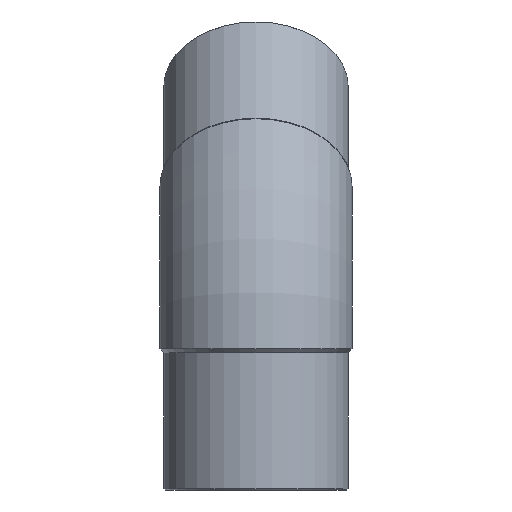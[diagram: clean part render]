
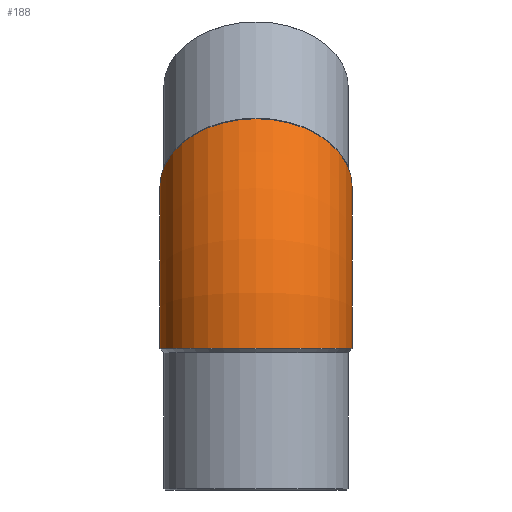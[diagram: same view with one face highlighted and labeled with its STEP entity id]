
A CAD part, left-side view. The second image highlights one B-rep face of the part: STEP entity #188.
In plain terms, the highlighted toroidal (fillet/blend) face has major radius 154.51 mm and minor radius 65 mm.
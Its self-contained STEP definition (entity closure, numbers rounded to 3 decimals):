
#20=TOROIDAL_SURFACE('',#225,154.51,65.);
#53=ORIENTED_EDGE('',*,*,#87,.T.);
#54=ORIENTED_EDGE('',*,*,#86,.F.);
#86=EDGE_CURVE('',#104,#104,#118,.F.);
#87=EDGE_CURVE('',#105,#105,#119,.F.);
#104=VERTEX_POINT('',#349);
#105=VERTEX_POINT('',#352);
#118=CIRCLE('',#224,65.);
#119=CIRCLE('',#226,65.);
#136=EDGE_LOOP('',(#53));
#137=EDGE_LOOP('',(#54));
#163=FACE_BOUND('',#136,.T.);
#164=FACE_BOUND('',#137,.T.);
#188=ADVANCED_FACE('',(#163,#164),#20,.T.);
#224=AXIS2_PLACEMENT_3D('',#348,#270,#271);
#225=AXIS2_PLACEMENT_3D('',#350,#272,#273);
#226=AXIS2_PLACEMENT_3D('',#351,#274,#275);
#270=DIRECTION('',(-0.707,0.,-0.707));
#271=DIRECTION('',(0.707,0.,-0.707));
#272=DIRECTION('',(0.,1.,0.));
#273=DIRECTION('',(0.,0.,1.));
#274=DIRECTION('',(0.,0.,-1.));
#275=DIRECTION('',(1.,0.,0.));
#348=CARTESIAN_POINT('',(45.255,0.,45.255));
#349=CARTESIAN_POINT('',(91.217,0.,-0.707));
#350=CARTESIAN_POINT('',(154.51,0.,-64.));
#351=CARTESIAN_POINT('',(0.,0.,-64.));
#352=CARTESIAN_POINT('',(65.,0.,-64.));
